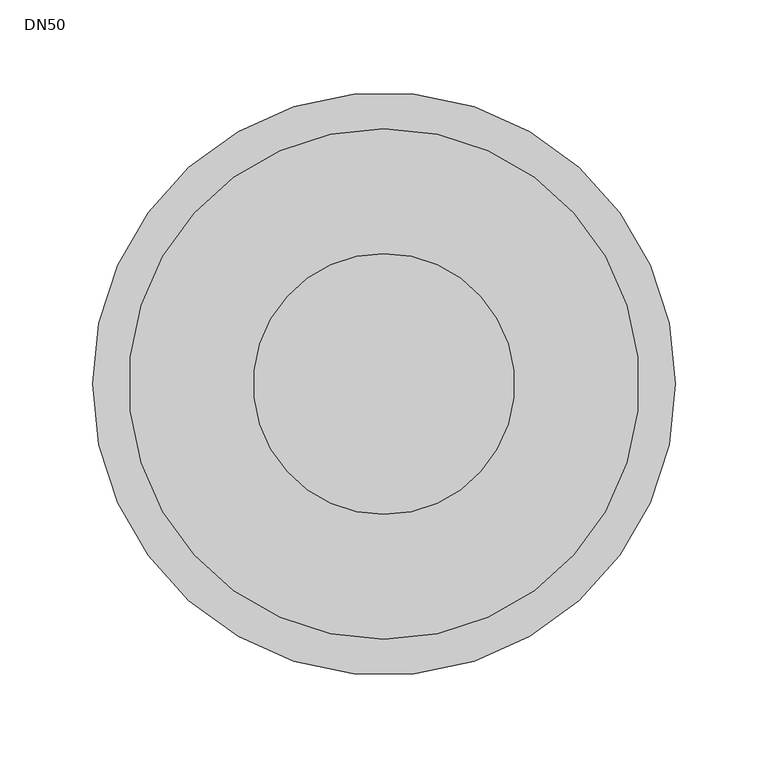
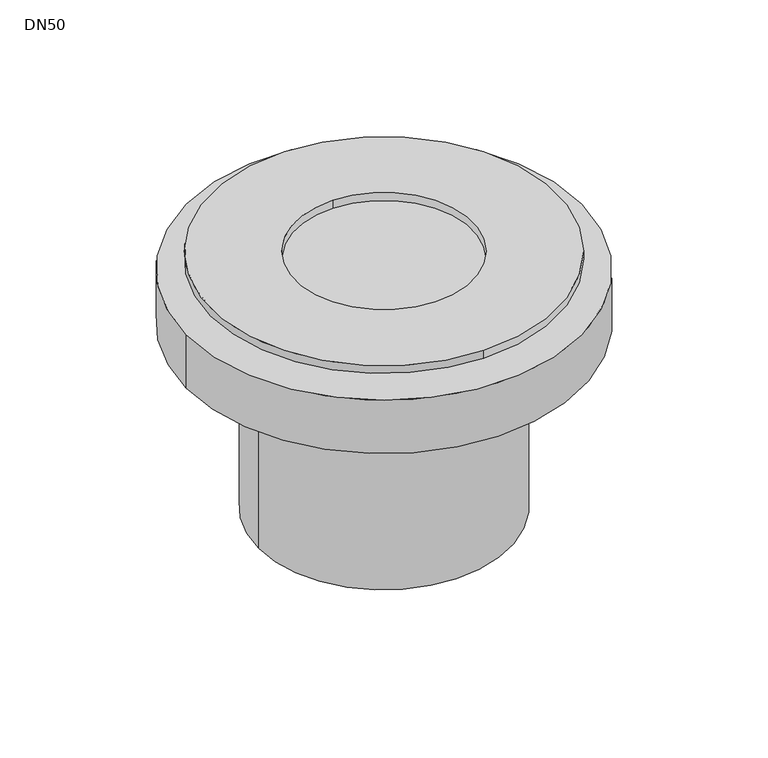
"""IFC4 building model written with IfcOpenShell, lengths in millimetres: sanitary terminal geometry, PF_GEN_UN_single body with gravel trap Passavant Jet_ACO : DN50."""

from ifc_helpers import new_model, si_unit, point, frame, origin, origin_2d, place, context, project, spatial, circle_curve, trimmed, segment, composite_curve, outline, extrude, source, transform, mapped, element, save


def dn50_1aebd825(model_context):
    return source(origin(), model_context, "Body", "SweptSolid", [
        extrude(outline(composite_curve([segment(trimmed(circle_curve(origin_2d(), 100.0), [point((-100.0, 0.0))], [point((100.0, 0.0))], False, "CARTESIAN"), True, "CONTINUOUS"), segment(trimmed(circle_curve(origin_2d(), 100.0), [point((100.0, 0.0))], [point((-100.0, 0.0))], False, "CARTESIAN"), True, "CONTINUOUS")], self_intersect=False)), frame((0.0, 0.0, -200.0), z_axis=(0.0, 0.0, 1.0), x_axis=(1.0, 0.0, 0.0)), (0.0, 0.0, 1.0), 155.0),
        extrude(outline(composite_curve([segment(trimmed(circle_curve(origin_2d(), 157.5), [point((-157.5, 0.0))], [point((157.5, 0.0))], False, "CARTESIAN"), True, "CONTINUOUS"), segment(trimmed(circle_curve(origin_2d(), 157.5), [point((157.5, 0.0))], [point((-157.5, 0.0))], False, "CARTESIAN"), True, "CONTINUOUS")], self_intersect=False)), frame((0.0, 0.0, -45.0), z_axis=(0.0, 0.0, 1.0), x_axis=(1.0, 0.0, 0.0)), (0.0, 0.0, 1.0), 45.0),
        extrude(outline(composite_curve([segment(trimmed(circle_curve(origin_2d(), 138.0), [point((0.0, -138.0))], [point((0.0, 138.0))], False, "CARTESIAN"), True, "CONTINUOUS"), segment(trimmed(circle_curve(origin_2d(), 138.0), [point((0.0, 138.0))], [point((0.0, -138.0))], False, "CARTESIAN"), True, "CONTINUOUS")], self_intersect=False), holes=[composite_curve([segment(trimmed(circle_curve(origin_2d(), 70.5), [point((0.0, -70.5))], [point((0.0, 70.5))], True, "CARTESIAN"), True, "CONTINUOUS"), segment(trimmed(circle_curve(origin_2d(), 70.5), [point((0.0, 70.5))], [point((0.0, -70.5))], True, "CARTESIAN"), True, "CONTINUOUS")], self_intersect=False)]), frame((0.0, 0.0, 9.0), z_axis=(0.0, 0.0, 1.0), x_axis=(1.0, 0.0, 0.0)), (0.0, 0.0, 1.0), 6.5),
    ])


if __name__ == "__main__":
    model = new_model("IFC4")
    model_context = context("Model", 3, world=origin())
    ifc_project = project(units=[si_unit("LENGTHUNIT", "METRE", prefix="MILLI")], contexts=[model_context])
    site = spatial("IfcSite", under=ifc_project)
    building = spatial("IfcBuilding", under=site)
    placement = place(None, origin())
    dn50_shape = dn50_1aebd825(model_context)
    element("IfcSanitaryTerminal", 1, ObjectType="PF_GEN_UN_single body with gravel trap Passavant Jet_ACO : DN50", at=placement, inside=building, context=model_context, shape_type="MappedRepresentation", body=[
        mapped(dn50_shape, transform((0.0, 0.0, 0.0), x_axis=(1.0, 0.0, 0.0), y_axis=(0.0, 1.0, 0.0), z_axis=(0.0, 0.0, 1.0))),
    ])
    save(model, "model.ifc")
